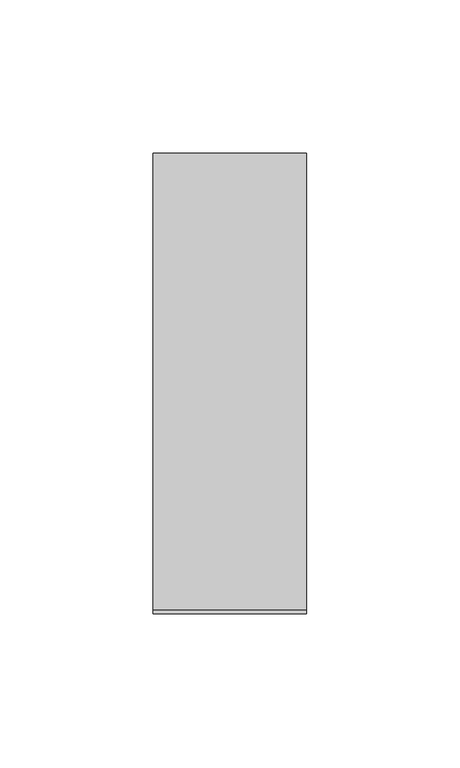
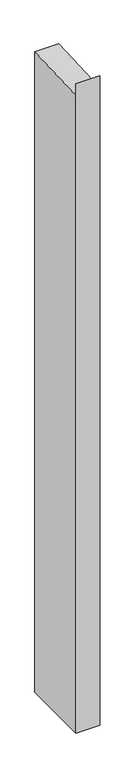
"""IFC4 building model written with IfcOpenShell, lengths in millimetres: member geometry, Прямоугольный импост : 50 x 150 мм."""

from ifc_helpers import new_model, si_unit, frame, origin, place, context, project, spatial, polyline, outline, extrude, source, transform, mapped, element, save


def member_88e25dfc(model_context):
    return source(origin(), model_context, "Body", "SweptSolid", [
        extrude(outline(polyline([(-75.0, 23.3099767), (-73.7977635, -3.3529557), (75.0, 3.3563625), (75.0, -1425.0), (-75.0, -1425.0), (-75.0, 23.3099767)])), frame((-50.0, 0.0, 0.0), z_axis=(1.0, 0.0, 0.0), x_axis=(0.0, 1.0, 0.0)), (0.0, 0.0, 1.0), 50.0),
    ])


if __name__ == "__main__":
    model = new_model("IFC4")
    model_context = context("Model", 3, world=origin())
    ifc_project = project(units=[si_unit("LENGTHUNIT", "METRE", prefix="MILLI")], contexts=[model_context])
    site = spatial("IfcSite", under=ifc_project)
    building = spatial("IfcBuilding", under=site)
    placement = place(None, origin())
    member_shape = member_88e25dfc(model_context)
    element("IfcMember", 1, ObjectType="Прямоугольный импост : 50 x 150 мм", at=placement, inside=building, context=model_context, shape_type="MappedRepresentation", body=[
        mapped(member_shape, transform((0.0, 0.0, 0.0), x_axis=(1.0, 0.0, 0.0), y_axis=(0.0, 1.0, 0.0), z_axis=(0.0, 0.0, 1.0))),
    ])
    save(model, "model.ifc")
